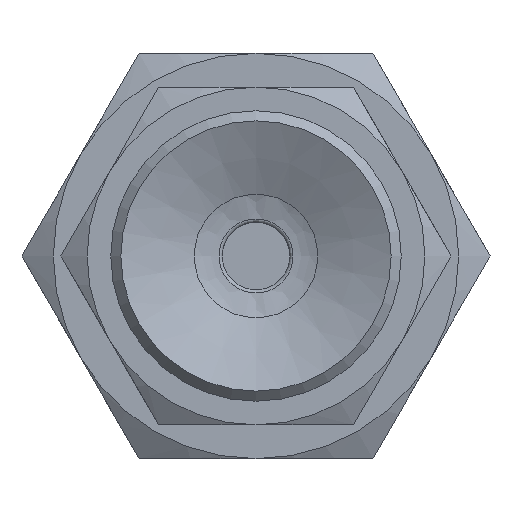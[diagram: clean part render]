
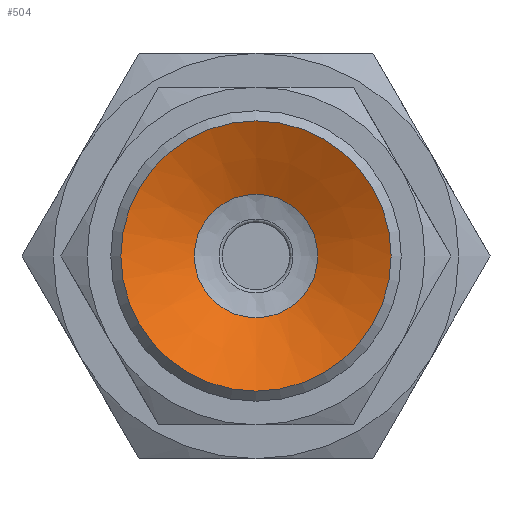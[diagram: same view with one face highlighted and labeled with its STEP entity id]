
A CAD part, front view. The second image highlights one B-rep face of the part: STEP entity #504.
In plain terms, the highlighted conical face has half-angle 65 degrees and reference radius 1.427 mm.
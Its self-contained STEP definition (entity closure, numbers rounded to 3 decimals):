
#504=ADVANCED_FACE('',(#774,#775),#776,.F.);
#774=FACE_BOUND('',#1061,.T.);
#775=FACE_OUTER_BOUND('',#1062,.T.);
#776=CONICAL_SURFACE('',#1063,1.427,1.134);
#1061=EDGE_LOOP('',(#1843));
#1062=EDGE_LOOP('',(#1844));
#1063=AXIS2_PLACEMENT_3D('',#1845,#1846,#1847);
#1843=ORIENTED_EDGE('',*,*,#2089,.T.);
#1844=ORIENTED_EDGE('',*,*,#2079,.T.);
#1845=CARTESIAN_POINT('',(0.0,7.096,0.));
#1846=DIRECTION('',(-0.0,-1.0,0.));
#1847=DIRECTION('',(0.0,0.,-1.0));
#2079=EDGE_CURVE('',#2420,#2420,#2421,.T.);
#2089=EDGE_CURVE('',#2440,#2440,#2441,.T.);
#2420=VERTEX_POINT('',#3200);
#2421=CIRCLE('',#3201,4.0);
#2440=VERTEX_POINT('',#3220);
#2441=CIRCLE('',#3221,1.828);
#3200=CARTESIAN_POINT('',(0.0,5.896,-4.0));
#3201=AXIS2_PLACEMENT_3D('',#3498,#3499,#3500);
#3220=CARTESIAN_POINT('',(0.0,6.909,-1.828));
#3221=AXIS2_PLACEMENT_3D('',#3528,#3529,#3530);
#3498=CARTESIAN_POINT('',(0.0,5.896,0.0));
#3499=DIRECTION('',(0.0,-1.0,0.));
#3500=DIRECTION('',(0.0,0.,-1.0));
#3528=CARTESIAN_POINT('',(0.0,6.909,0.0));
#3529=DIRECTION('',(0.0,1.0,0.));
#3530=DIRECTION('',(0.0,0.,-1.0));
